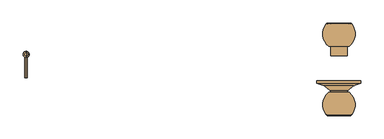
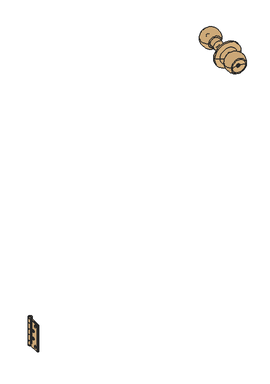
"""IFC4 building model written with IfcOpenShell, lengths in millimetres: door geometry, Puerta contraplacada Vaiven : Puerta contraplacada 0.85x2.10 m."""

from ifc_helpers import new_model, si_unit, point, frame, frame_2d, origin, place, context, project, spatial, polyline, circle_curve, ellipse_curve, trimmed, segment, composite_curve, outline, extrude, source, transform, mapped, element, save
from ifc_brep_helpers import plane_surface, cylinder_surface, revolved_surface, advanced_brep


def door_b74d320c(model_context):
    return source(origin(), model_context, "Body", "SolidModel", [
        advanced_brep(
        [(-389.0, 7.5, 200.0349265), (-389.0, 7.5, 100.0349265), (-389.0, 51.5, 100.0349265), (-389.0, 51.5, 115.5349265), (-389.0, 51.0, 115.5349265), (-389.0, 51.0, 141.0349265), (-389.0, 51.5, 141.0349265), (-389.0, 51.5, 159.0349265), (-389.0, 51.0, 159.0349265), (-389.0, 51.0, 184.5349265), (-389.0, 51.5, 184.5349265), (-389.0, 51.5, 200.0349265), (-389.0, 17.5, 111.0349265), (-389.0, 25.5, 111.0349265), (-389.0, 28.5, 136.0349265), (-389.0, 36.5, 136.0349265), (-389.0, 17.5, 189.0349265), (-389.0, 25.5, 189.0349265), (-389.0, 28.5, 164.0349265), (-389.0, 36.5, 164.0349265), (-391.0, 7.5, 100.0349265), (-391.0, 7.5, 200.0349265), (-391.0, 53.027864, 200.0349265), (-391.0, 53.027864, 184.5349265), (-391.0, 51.0, 184.5349265), (-391.0, 51.0, 159.0349265), (-391.0, 53.027864, 159.0349265), (-391.0, 53.027864, 141.0349265), (-391.0, 51.0, 141.0349265), (-391.0, 51.0, 115.5349265), (-391.0, 53.027864, 115.5349265), (-391.0, 53.027864, 100.0349265), (-391.0, 25.5, 111.0349265), (-391.0, 17.5, 111.0349265), (-391.0, 36.5, 136.0349265), (-391.0, 28.5, 136.0349265), (-391.0, 25.5, 189.0349265), (-391.0, 17.5, 189.0349265), (-391.0, 36.5, 164.0349265), (-391.0, 28.5, 164.0349265), (-392.0, 53.027864, 100.0349265), (-392.0, 51.0192593, 100.0349265), (-392.0, 51.0192593, 200.0349265), (-392.0, 53.027864, 200.0349265), (-392.0, 53.027864, 184.5349265), (-392.0, 51.0192593, 184.5349265), (-392.0, 51.0192593, 159.0349265), (-392.0, 53.027864, 159.0349265), (-392.0, 53.027864, 141.0349265), (-392.0, 51.0192593, 141.0349265), (-392.0, 51.0192593, 115.5349265), (-392.0, 53.027864, 115.5349265)],
        [
            (0, 1),
            (1, 2),
            (2, 3),
            (3, 4),
            (4, 5),
            (5, 6),
            (6, 7),
            (7, 8),
            (8, 9),
            (9, 10),
            (10, 11),
            (11, 0),
            (12, 13, circle_curve(frame((-389.0, 21.5, 111.0349265), z_axis=(-1.0, 0.0, 0.0), x_axis=(0.0, -1.0, 0.0)), 4.0)),
            (13, 12, circle_curve(frame((-389.0, 21.5, 111.0349265), z_axis=(-1.0, 0.0, 0.0), x_axis=(0.0, -1.0, 0.0)), 4.0)),
            (14, 15, circle_curve(frame((-389.0, 32.5, 136.0349265), z_axis=(-1.0, 0.0, 0.0), x_axis=(0.0, -1.0, 0.0)), 4.0)),
            (15, 14, circle_curve(frame((-389.0, 32.5, 136.0349265), z_axis=(-1.0, 0.0, 0.0), x_axis=(0.0, -1.0, 0.0)), 4.0)),
            (16, 17, circle_curve(frame((-389.0, 21.5, 189.0349265), z_axis=(-1.0, 0.0, 0.0), x_axis=(0.0, -1.0, 0.0)), 4.0)),
            (17, 16, circle_curve(frame((-389.0, 21.5, 189.0349265), z_axis=(-1.0, 0.0, 0.0), x_axis=(0.0, -1.0, 0.0)), 4.0)),
            (18, 19, circle_curve(frame((-389.0, 32.5, 164.0349265), z_axis=(-1.0, 0.0, 0.0), x_axis=(0.0, -1.0, 0.0)), 4.0)),
            (19, 18, circle_curve(frame((-389.0, 32.5, 164.0349265), z_axis=(-1.0, 0.0, 0.0), x_axis=(0.0, -1.0, 0.0)), 4.0)),
            (20, 21),
            (21, 22),
            (22, 23),
            (23, 24),
            (24, 25),
            (25, 26),
            (26, 27),
            (27, 28),
            (28, 29),
            (29, 30),
            (30, 31),
            (31, 20),
            (32, 33, circle_curve(frame((-391.0, 21.5, 111.0349265), z_axis=(1.0, 0.0, 0.0), x_axis=(0.0, -1.0, 0.0)), 4.0)),
            (33, 32, circle_curve(frame((-391.0, 21.5, 111.0349265), z_axis=(1.0, 0.0, 0.0), x_axis=(0.0, -1.0, 0.0)), 4.0)),
            (34, 35, circle_curve(frame((-391.0, 32.5, 136.0349265), z_axis=(1.0, 0.0, 0.0), x_axis=(0.0, -1.0, 0.0)), 4.0)),
            (35, 34, circle_curve(frame((-391.0, 32.5, 136.0349265), z_axis=(1.0, 0.0, 0.0), x_axis=(0.0, -1.0, 0.0)), 4.0)),
            (36, 37, circle_curve(frame((-391.0, 21.5, 189.0349265), z_axis=(1.0, 0.0, 0.0), x_axis=(0.0, -1.0, 0.0)), 4.0)),
            (37, 36, circle_curve(frame((-391.0, 21.5, 189.0349265), z_axis=(1.0, 0.0, 0.0), x_axis=(0.0, -1.0, 0.0)), 4.0)),
            (38, 39, circle_curve(frame((-391.0, 32.5, 164.0349265), z_axis=(1.0, 0.0, 0.0), x_axis=(0.0, -1.0, 0.0)), 4.0)),
            (39, 38, circle_curve(frame((-391.0, 32.5, 164.0349265), z_axis=(1.0, 0.0, 0.0), x_axis=(0.0, -1.0, 0.0)), 4.0)),
            (1, 20),
            (31, 40, circle_curve(frame((-391.5, 57.5, 100.0349265), z_axis=(0.0, 0.0, 1.0), x_axis=(0.0, 1.0, 0.0)), 4.5)),
            (40, 41),
            (41, 2, circle_curve(frame((-391.5, 57.5, 100.0349265), z_axis=(0.0, 0.0, -1.0), x_axis=(0.0, 1.0, 0.0)), 6.5)),
            (0, 21),
            (11, 42, circle_curve(frame((-391.5, 57.5, 200.0349265), z_axis=(0.0, 0.0, 1.0), x_axis=(0.0, 1.0, 0.0)), 6.5)),
            (42, 43),
            (43, 22, circle_curve(frame((-391.5, 57.5, 200.0349265), z_axis=(0.0, 0.0, -1.0), x_axis=(0.0, 1.0, 0.0)), 4.5)),
            (24, 9),
            (8, 25),
            (28, 5),
            (4, 29),
            (23, 44, circle_curve(frame((-391.5, 57.5, 184.5349265), z_axis=(0.0, 0.0, 1.0), x_axis=(0.0, 1.0, 0.0)), 4.5)),
            (44, 45),
            (45, 10, circle_curve(frame((-391.5, 57.5, 184.5349265), z_axis=(0.0, 0.0, -1.0), x_axis=(0.0, 1.0, 0.0)), 6.5)),
            (45, 42),
            (44, 43),
            (7, 46, circle_curve(frame((-391.5, 57.5, 159.0349265), z_axis=(0.0, 0.0, 1.0), x_axis=(0.0, 1.0, 0.0)), 6.5)),
            (46, 47),
            (47, 26, circle_curve(frame((-391.5, 57.5, 159.0349265), z_axis=(0.0, 0.0, -1.0), x_axis=(0.0, 1.0, 0.0)), 4.5)),
            (27, 48, circle_curve(frame((-391.5, 57.5, 141.0349265), z_axis=(0.0, 0.0, 1.0), x_axis=(0.0, 1.0, 0.0)), 4.5)),
            (48, 49),
            (49, 6, circle_curve(frame((-391.5, 57.5, 141.0349265), z_axis=(0.0, 0.0, -1.0), x_axis=(0.0, 1.0, 0.0)), 6.5)),
            (49, 46),
            (48, 47),
            (3, 50, circle_curve(frame((-391.5, 57.5, 115.5349265), z_axis=(0.0, 0.0, 1.0), x_axis=(0.0, 1.0, 0.0)), 6.5)),
            (50, 51),
            (51, 30, circle_curve(frame((-391.5, 57.5, 115.5349265), z_axis=(0.0, 0.0, -1.0), x_axis=(0.0, 1.0, 0.0)), 4.5)),
            (41, 50),
            (40, 51),
            (32, 13),
            (12, 33),
            (34, 15),
            (14, 35),
            (36, 17),
            (16, 37),
            (38, 19),
            (18, 39),
        ],
        [
            plane_surface(frame((-389.0, 51.0, 100.0349265), z_axis=(1.0, 0.0, 0.0), x_axis=(0.0, 0.0, 1.0))),
            plane_surface(frame((-391.0, 51.0, 100.0349265), z_axis=(-1.0, 0.0, 0.0), x_axis=(0.0, 0.0, -1.0))),
            plane_surface(frame((-389.0, 7.5, 100.0349265), z_axis=(0.0, 0.0, -1.0), x_axis=(-1.0, 0.0, 0.0))),
            plane_surface(frame((-389.0, 7.5, 200.0349265), z_axis=(0.0, -1.0, 0.0), x_axis=(-1.0, 0.0, 0.0))),
            plane_surface(frame((-389.0, 51.0, 200.0349265), z_axis=(0.0, 0.0, 1.0), x_axis=(-1.0, 0.0, 0.0))),
            plane_surface(frame((-389.0, 51.0, 100.0349265), z_axis=(0.0, 1.0, 0.0), x_axis=(-1.0, 0.0, 0.0))),
            plane_surface(frame((-391.0, 51.0, 184.5349265), z_axis=(0.0, 0.0, -1.0), x_axis=(0.0, 1.0, 0.0))),
            cylinder_surface(frame((-391.5, 57.5, 184.5349265), z_axis=(0.0, 0.0, 1.0), x_axis=(0.0, 1.0, 0.0)), 6.5),
            plane_surface(frame((-392.0, 51.0192593, 200.0349265), z_axis=(1.0, 0.0, 0.0), x_axis=(0.0, 0.0, -1.0))),
            revolved_surface(polyline([(-391.5, 62.0, 184.5349265), (-391.5, 62.0, 200.0349265)]), (-391.5, 57.5, 184.5349265), (0.0, 0.0, -1.0)),
            plane_surface(frame((-391.0, 51.0, 159.0349265), z_axis=(0.0, 0.0, 1.0), x_axis=(0.0, -1.0, 0.0))),
            plane_surface(frame((-391.0, 51.0, 141.0349265), z_axis=(0.0, 0.0, -1.0), x_axis=(0.0, 1.0, 0.0))),
            cylinder_surface(frame((-391.5, 57.5, 141.0349265), z_axis=(0.0, 0.0, 1.0), x_axis=(0.0, 1.0, 0.0)), 6.5),
            plane_surface(frame((-392.0, 51.0192593, 159.0349265), z_axis=(1.0, 0.0, 0.0), x_axis=(0.0, 0.0, -1.0))),
            revolved_surface(polyline([(-391.5, 62.0, 141.0349265), (-391.5, 62.0, 159.0349265)]), (-391.5, 57.5, 141.0349265), (0.0, 0.0, -1.0)),
            plane_surface(frame((-391.0, 51.0, 115.5349265), z_axis=(0.0, 0.0, 1.0), x_axis=(0.0, -1.0, 0.0))),
            cylinder_surface(frame((-391.5, 57.5, 100.0349265), z_axis=(0.0, 0.0, 1.0), x_axis=(0.0, 1.0, 0.0)), 6.5),
            plane_surface(frame((-392.0, 51.0192593, 115.5349265), z_axis=(1.0, 0.0, 0.0), x_axis=(0.0, 0.0, -1.0))),
            revolved_surface(polyline([(-391.5, 62.0, 100.0349265), (-391.5, 62.0, 115.5349265)]), (-391.5, 57.5, 100.0349265), (0.0, 0.0, -1.0)),
            revolved_surface(polyline([(-389.0, 17.5, 111.0349265), (-391.0, 17.5, 111.0349265)]), (-394.0, 21.5, 111.0349265), (1.0, 0.0, 0.0)),
            revolved_surface(polyline([(-389.0, 28.5, 136.0349265), (-391.0, 28.5, 136.0349265)]), (-392.0, 32.5, 136.0349265), (1.0, 0.0, 0.0)),
            revolved_surface(polyline([(-389.0, 17.5, 189.0349265), (-391.0, 17.5, 189.0349265)]), (-392.0, 21.5, 189.0349265), (1.0, 0.0, 0.0)),
            revolved_surface(polyline([(-389.0, 28.5, 164.0349265), (-391.0, 28.5, 164.0349265)]), (-392.0, 32.5, 164.0349265), (1.0, 0.0, 0.0)),
        ],
        [
            (0, [[1, 2, 3, 4, 5, 6, 7, 8, 9, 10, 11, 12], [13, 14], [15, 16], [17, 18], [19, 20]]),
            (1, [[21, 22, 23, 24, 25, 26, 27, 28, 29, 30, 31, 32], [33, 34], [35, 36], [37, 38], [39, 40]]),
            (2, [[41, -32, 42, 43, 44, -2]]),
            (3, [[-1, 45, -21, -41]]),
            (4, [[-45, -12, 46, 47, 48, -22]]),
            (5, [[49, -9, 50, -25]]),
            (5, [[51, -5, 52, -29]]),
            (6, [[53, 54, 55, -10, -49, -24]]),
            (7, [[-46, -11, -55, 56]]),
            (8, [[-47, -56, -54, 57]]),
            (9, [[-48, -57, -53, -23]]),
            (10, [[58, 59, 60, -26, -50, -8]]),
            (11, [[61, 62, 63, -6, -51, -28]]),
            (12, [[-58, -7, -63, 64]]),
            (13, [[-59, -64, -62, 65]]),
            (14, [[-60, -65, -61, -27]]),
            (15, [[66, 67, 68, -30, -52, -4]]),
            (16, [[-66, -3, -44, 69]]),
            (17, [[-67, -69, -43, 70]]),
            (18, [[-68, -70, -42, -31]]),
            (19, [[71, -13, 72, -33]]),
            (19, [[-71, -34, -72, -14]]),
            (20, [[73, -15, 74, -35]]),
            (20, [[-73, -36, -74, -16]]),
            (21, [[75, -17, 76, -37]]),
            (21, [[-75, -38, -76, -18]]),
            (22, [[77, -19, 78, -39]]),
            (22, [[-77, -40, -78, -20]]),
        ],
    ),
        advanced_brep(
        [(-391.5, 53.0, 204.0349265), (-391.5, 61.9442719, 204.0349265), (-391.5, 61.9442719, 200.5349265), (-391.5, 53.0, 200.5349265), (-391.5, 57.472136, 204.0349265), (-391.5, 53.0, 96.0349265), (-391.5, 61.9442719, 96.0349265), (-391.5, 57.472136, 96.0349265), (-391.5, 53.0, 99.5349265), (-391.5, 61.9442719, 99.5349265)],
        [
            (0, 1, circle_curve(frame((-391.5, 57.472136, 204.0349265), z_axis=(0.0, 0.0, -1.0), x_axis=(0.0, 1.0, 0.0)), 4.472136)),
            (1, 2, circle_curve(frame((-391.5, 61.9442719, 202.2849265), z_axis=(-1.0, 0.0, 0.0), x_axis=(0.0, -1.0, 0.0)), 1.75)),
            (2, 3, circle_curve(frame((-391.5, 57.472136, 200.5349265), z_axis=(0.0, 0.0, 1.0), x_axis=(0.0, 1.0, 0.0)), 4.472136)),
            (3, 0, circle_curve(frame((-391.5, 53.0, 202.2849265), z_axis=(-1.0, 0.0, 0.0), x_axis=(0.0, 1.0, 0.0)), 1.75)),
            (1, 0, circle_curve(frame((-391.5, 57.472136, 204.0349265), z_axis=(0.0, 0.0, -1.0), x_axis=(0.0, 1.0, 0.0)), 4.472136)),
            (3, 2, circle_curve(frame((-391.5, 57.472136, 200.5349265), z_axis=(0.0, 0.0, 1.0), x_axis=(0.0, 1.0, 0.0)), 4.472136)),
            (4, 1),
            (0, 4),
            (5, 6, circle_curve(frame((-391.5, 57.472136, 96.0349265), z_axis=(0.0, 0.0, -1.0), x_axis=(0.0, 1.0, 0.0)), 4.472136)),
            (6, 7),
            (7, 5),
            (6, 5, circle_curve(frame((-391.5, 57.472136, 96.0349265), z_axis=(0.0, 0.0, -1.0), x_axis=(0.0, 1.0, 0.0)), 4.472136)),
            (8, 9, circle_curve(frame((-391.5, 57.472136, 99.5349265), z_axis=(0.0, 0.0, -1.0), x_axis=(0.0, 1.0, 0.0)), 4.472136)),
            (9, 6, circle_curve(frame((-391.5, 61.9442719, 97.7849265), z_axis=(-1.0, 0.0, 0.0), x_axis=(0.0, -1.0, 0.0)), 1.75)),
            (5, 8, circle_curve(frame((-391.5, 53.0, 97.7849265), z_axis=(-1.0, 0.0, 0.0), x_axis=(0.0, 1.0, 0.0)), 1.75)),
            (9, 8, circle_curve(frame((-391.5, 57.472136, 99.5349265), z_axis=(0.0, 0.0, -1.0), x_axis=(0.0, 1.0, 0.0)), 4.472136)),
            (2, 9),
            (8, 3),
        ],
        [
            revolved_surface(trimmed(ellipse_curve(frame((-391.5, 61.9442719, 202.2849265), z_axis=(1.0, 0.0, 0.0), x_axis=(0.0, -1.0, 0.0)), 1.75, 1.75), [point((-391.5, 61.9442719, 200.5349265))], [point((-391.5, 61.9442719, 204.0349265))], True, "CARTESIAN"), (-391.5, 57.472136, 204.0349265), (0.0, 0.0, 1.0)),
            plane_surface(frame((-391.5, 57.472136, 204.0349265), z_axis=(0.0, 0.0, 1.0), x_axis=(0.0, 1.0, 0.0))),
            plane_surface(frame((-391.5, 57.472136, 96.0349265), z_axis=(0.0, 0.0, -1.0), x_axis=(0.0, 1.0, 0.0))),
            revolved_surface(trimmed(ellipse_curve(frame((-391.5, 61.9442719, 97.7849265), z_axis=(1.0, 0.0, 0.0), x_axis=(0.0, -1.0, 0.0)), 1.75, 1.75), [point((-391.5, 61.9442719, 96.0349265))], [point((-391.5, 61.9442719, 99.5349265))], True, "CARTESIAN"), (-391.5, 57.472136, 204.0349265), (0.0, 0.0, 1.0)),
            cylinder_surface(frame((-391.5, 57.472136, 204.0349265), z_axis=(0.0, 0.0, 1.0), x_axis=(0.0, 1.0, 0.0)), 4.472136),
        ],
        [
            (0, [[1, 2, 3, 4]]),
            (0, [[5, -4, 6, -2]]),
            (1, [[7, -1, 8]]),
            (1, [[-8, -5, -7]]),
            (2, [[9, 10, 11]]),
            (2, [[12, -11, -10]]),
            (3, [[13, 14, -9, 15]]),
            (3, [[16, -15, -12, -14]]),
            (4, [[-3, 17, -13, 18]]),
            (4, [[-6, -18, -16, -17]]),
        ],
    ),
        advanced_brep(
        [(-392.0, 51.0, 200.0349265), (-392.0, 7.5, 200.0349265), (-392.0, 7.5, 100.0349265), (-392.0, 51.0, 100.0349265), (-392.0, 51.0, 116.5349265), (-392.0, 53.027864, 116.5349265), (-392.0, 53.027864, 140.0349265), (-392.0, 51.0, 140.0349265), (-392.0, 51.0, 160.0349265), (-392.0, 53.027864, 160.0349265), (-392.0, 53.027864, 183.5349265), (-392.0, 51.0, 183.5349265), (-392.0, 17.5, 111.0349265), (-392.0, 25.5, 111.0349265), (-392.0, 28.5, 136.0349265), (-392.0, 36.5, 136.0349265), (-392.0, 17.5, 189.0349265), (-392.0, 25.5, 189.0349265), (-392.0, 28.5, 164.0349265), (-392.0, 36.5, 164.0349265), (-394.0, 51.0, 100.0349265), (-394.0, 7.5, 100.0349265), (-394.0, 7.5, 200.0349265), (-394.0, 51.0, 200.0349265), (-394.0, 51.0, 183.5349265), (-394.0, 51.5, 183.5349265), (-394.0, 51.5, 160.0349265), (-394.0, 51.0, 160.0349265), (-394.0, 51.0, 140.0349265), (-394.0, 51.5, 140.0349265), (-394.0, 51.5, 116.5349265), (-394.0, 51.0, 116.5349265), (-394.0, 25.5, 111.0349265), (-394.0, 17.5, 111.0349265), (-394.0, 36.5, 136.0349265), (-394.0, 28.5, 136.0349265), (-394.0, 25.5, 189.0349265), (-394.0, 17.5, 189.0349265), (-394.0, 36.5, 164.0349265), (-394.0, 28.5, 164.0349265), (-391.0, 53.027864, 183.5349265), (-391.0, 51.0192593, 183.5349265), (-391.0, 51.0192593, 160.0349265), (-391.0, 53.027864, 160.0349265), (-391.0, 53.027864, 140.0349265), (-391.0, 51.0192593, 140.0349265), (-391.0, 51.0192593, 116.5349265), (-391.0, 53.027864, 116.5349265)],
        [
            (0, 1),
            (1, 2),
            (2, 3),
            (3, 4),
            (4, 5),
            (5, 6),
            (6, 7),
            (7, 8),
            (8, 9),
            (9, 10),
            (10, 11),
            (11, 0),
            (12, 13, circle_curve(frame((-392.0, 21.5, 111.0349265), z_axis=(-1.0, 0.0, 0.0), x_axis=(0.0, -1.0, 0.0)), 4.0)),
            (13, 12, circle_curve(frame((-392.0, 21.5, 111.0349265), z_axis=(-1.0, 0.0, 0.0), x_axis=(0.0, -1.0, 0.0)), 4.0)),
            (14, 15, circle_curve(frame((-392.0, 32.5, 136.0349265), z_axis=(-1.0, 0.0, 0.0), x_axis=(0.0, -1.0, 0.0)), 4.0)),
            (15, 14, circle_curve(frame((-392.0, 32.5, 136.0349265), z_axis=(-1.0, 0.0, 0.0), x_axis=(0.0, -1.0, 0.0)), 4.0)),
            (16, 17, circle_curve(frame((-392.0, 21.5, 189.0349265), z_axis=(-1.0, 0.0, 0.0), x_axis=(0.0, -1.0, 0.0)), 4.0)),
            (17, 16, circle_curve(frame((-392.0, 21.5, 189.0349265), z_axis=(-1.0, 0.0, 0.0), x_axis=(0.0, -1.0, 0.0)), 4.0)),
            (18, 19, circle_curve(frame((-392.0, 32.5, 164.0349265), z_axis=(-1.0, 0.0, 0.0), x_axis=(0.0, -1.0, 0.0)), 4.0)),
            (19, 18, circle_curve(frame((-392.0, 32.5, 164.0349265), z_axis=(-1.0, 0.0, 0.0), x_axis=(0.0, -1.0, 0.0)), 4.0)),
            (20, 21),
            (21, 22),
            (22, 23),
            (23, 24),
            (24, 25),
            (25, 26),
            (26, 27),
            (27, 28),
            (28, 29),
            (29, 30),
            (30, 31),
            (31, 20),
            (32, 33, circle_curve(frame((-394.0, 21.5, 111.0349265), z_axis=(1.0, 0.0, 0.0), x_axis=(0.0, -1.0, 0.0)), 4.0)),
            (33, 32, circle_curve(frame((-394.0, 21.5, 111.0349265), z_axis=(1.0, 0.0, 0.0), x_axis=(0.0, -1.0, 0.0)), 4.0)),
            (34, 35, circle_curve(frame((-394.0, 32.5, 136.0349265), z_axis=(1.0, 0.0, 0.0), x_axis=(0.0, -1.0, 0.0)), 4.0)),
            (35, 34, circle_curve(frame((-394.0, 32.5, 136.0349265), z_axis=(1.0, 0.0, 0.0), x_axis=(0.0, -1.0, 0.0)), 4.0)),
            (36, 37, circle_curve(frame((-394.0, 21.5, 189.0349265), z_axis=(1.0, 0.0, 0.0), x_axis=(0.0, -1.0, 0.0)), 4.0)),
            (37, 36, circle_curve(frame((-394.0, 21.5, 189.0349265), z_axis=(1.0, 0.0, 0.0), x_axis=(0.0, -1.0, 0.0)), 4.0)),
            (38, 39, circle_curve(frame((-394.0, 32.5, 164.0349265), z_axis=(1.0, 0.0, 0.0), x_axis=(0.0, -1.0, 0.0)), 4.0)),
            (39, 38, circle_curve(frame((-394.0, 32.5, 164.0349265), z_axis=(1.0, 0.0, 0.0), x_axis=(0.0, -1.0, 0.0)), 4.0)),
            (2, 21),
            (20, 3),
            (1, 22),
            (0, 23),
            (11, 24),
            (31, 4),
            (27, 8),
            (7, 28),
            (10, 40, circle_curve(frame((-391.5, 57.5, 183.5349265), z_axis=(0.0, 0.0, -1.0), x_axis=(0.0, 1.0, 0.0)), 4.5)),
            (40, 41),
            (41, 25, circle_curve(frame((-391.5, 57.5, 183.5349265), z_axis=(0.0, 0.0, 1.0), x_axis=(0.0, 1.0, 0.0)), 6.5)),
            (26, 42, circle_curve(frame((-391.5, 57.5, 160.0349265), z_axis=(0.0, 0.0, -1.0), x_axis=(0.0, 1.0, 0.0)), 6.5)),
            (42, 43),
            (43, 9, circle_curve(frame((-391.5, 57.5, 160.0349265), z_axis=(0.0, 0.0, 1.0), x_axis=(0.0, 1.0, 0.0)), 4.5)),
            (41, 42),
            (40, 43),
            (6, 44, circle_curve(frame((-391.5, 57.5, 140.0349265), z_axis=(0.0, 0.0, -1.0), x_axis=(0.0, 1.0, 0.0)), 4.5)),
            (44, 45),
            (45, 29, circle_curve(frame((-391.5, 57.5, 140.0349265), z_axis=(0.0, 0.0, 1.0), x_axis=(0.0, 1.0, 0.0)), 6.5)),
            (30, 46, circle_curve(frame((-391.5, 57.5, 116.5349265), z_axis=(0.0, 0.0, -1.0), x_axis=(0.0, 1.0, 0.0)), 6.5)),
            (46, 47),
            (47, 5, circle_curve(frame((-391.5, 57.5, 116.5349265), z_axis=(0.0, 0.0, 1.0), x_axis=(0.0, 1.0, 0.0)), 4.5)),
            (45, 46),
            (44, 47),
            (32, 13),
            (12, 33),
            (34, 15),
            (14, 35),
            (36, 17),
            (16, 37),
            (38, 19),
            (18, 39),
        ],
        [
            plane_surface(frame((-392.0, 51.0, 100.0349265), z_axis=(1.0, 0.0, 0.0), x_axis=(0.0, 0.0, 1.0))),
            plane_surface(frame((-394.0, 51.0, 100.0349265), z_axis=(-1.0, 0.0, 0.0), x_axis=(0.0, 0.0, -1.0))),
            plane_surface(frame((-392.0, 7.5, 100.0349265), z_axis=(0.0, 0.0, -1.0), x_axis=(-1.0, 0.0, 0.0))),
            plane_surface(frame((-392.0, 7.5, 200.0349265), z_axis=(0.0, -1.0, 0.0), x_axis=(-1.0, 0.0, 0.0))),
            plane_surface(frame((-392.0, 51.0, 200.0349265), z_axis=(0.0, 0.0, 1.0), x_axis=(-1.0, 0.0, 0.0))),
            plane_surface(frame((-392.0, 51.0, 100.0349265), z_axis=(0.0, 1.0, 0.0), x_axis=(-1.0, 0.0, 0.0))),
            plane_surface(frame((-391.5, 62.0, 183.5349265), z_axis=(0.0, 0.0, 1.0), x_axis=(1.0, 0.0, 0.0))),
            plane_surface(frame((-391.5, 62.0, 160.0349265), z_axis=(0.0, 0.0, -1.0), x_axis=(-1.0, 0.0, 0.0))),
            cylinder_surface(frame((-391.5, 57.5, 160.0349265), z_axis=(0.0, 0.0, 1.0), x_axis=(0.0, 1.0, 0.0)), 6.5),
            plane_surface(frame((-391.0, 53.027864, 183.5349265), z_axis=(-1.0, 0.0, 0.0), x_axis=(0.0, 0.0, -1.0))),
            revolved_surface(polyline([(-391.5, 62.0, 160.0349265), (-391.5, 62.0, 183.5349265)]), (-391.5, 57.5, 160.0349265), (0.0, 0.0, -1.0)),
            plane_surface(frame((-391.5, 62.0, 140.0349265), z_axis=(0.0, 0.0, 1.0), x_axis=(1.0, 0.0, 0.0))),
            plane_surface(frame((-391.5, 62.0, 116.5349265), z_axis=(0.0, 0.0, -1.0), x_axis=(-1.0, 0.0, 0.0))),
            cylinder_surface(frame((-391.5, 57.5, 116.5349265), z_axis=(0.0, 0.0, 1.0), x_axis=(0.0, 1.0, 0.0)), 6.5),
            plane_surface(frame((-391.0, 53.027864, 140.0349265), z_axis=(-1.0, 0.0, 0.0), x_axis=(0.0, 0.0, -1.0))),
            revolved_surface(polyline([(-391.5, 62.0, 116.5349265), (-391.5, 62.0, 140.0349265)]), (-391.5, 57.5, 116.5349265), (0.0, 0.0, -1.0)),
            revolved_surface(polyline([(-392.0, 17.5, 111.0349265), (-394.0, 17.5, 111.0349265)]), (-394.0, 21.5, 111.0349265), (1.0, 0.0, 0.0)),
            revolved_surface(polyline([(-392.0, 28.5, 136.0349265), (-394.0, 28.5, 136.0349265)]), (-392.0, 32.5, 136.0349265), (1.0, 0.0, 0.0)),
            revolved_surface(polyline([(-392.0, 17.5, 189.0349265), (-394.0, 17.5, 189.0349265)]), (-392.0, 21.5, 189.0349265), (1.0, 0.0, 0.0)),
            revolved_surface(polyline([(-392.0, 28.5, 164.0349265), (-394.0, 28.5, 164.0349265)]), (-392.0, 32.5, 164.0349265), (1.0, 0.0, 0.0)),
        ],
        [
            (0, [[1, 2, 3, 4, 5, 6, 7, 8, 9, 10, 11, 12], [13, 14], [15, 16], [17, 18], [19, 20]]),
            (1, [[21, 22, 23, 24, 25, 26, 27, 28, 29, 30, 31, 32], [33, 34], [35, 36], [37, 38], [39, 40]]),
            (2, [[-3, 41, -21, 42]]),
            (3, [[-2, 43, -22, -41]]),
            (4, [[-1, 44, -23, -43]]),
            (5, [[-44, -12, 45, -24]]),
            (5, [[-42, -32, 46, -4]]),
            (5, [[47, -8, 48, -28]]),
            (6, [[49, 50, 51, -25, -45, -11]]),
            (7, [[52, 53, 54, -9, -47, -27]]),
            (8, [[-51, 55, -52, -26]]),
            (9, [[-50, 56, -53, -55]]),
            (10, [[-49, -10, -54, -56]]),
            (11, [[57, 58, 59, -29, -48, -7]]),
            (12, [[60, 61, 62, -5, -46, -31]]),
            (13, [[-59, 63, -60, -30]]),
            (14, [[-58, 64, -61, -63]]),
            (15, [[-57, -6, -62, -64]]),
            (16, [[65, -13, 66, -33]]),
            (16, [[-65, -34, -66, -14]]),
            (17, [[67, -15, 68, -35]]),
            (17, [[-67, -36, -68, -16]]),
            (18, [[69, -17, 70, -37]]),
            (18, [[-69, -38, -70, -18]]),
            (19, [[71, -19, 72, -39]]),
            (19, [[-71, -40, -72, -20]]),
        ],
    ),
        advanced_brep(
        [(308.5312643, -74.946362, 1000.0), (262.0312357, -74.946362, 1000.0), (279.08125, -70.0573491, 1000.0), (291.48125, -70.0573491, 1000.0), (279.08125, -66.5726145, 1000.0), (291.48125, -66.5726145, 1000.0), (285.28125, -66.5726145, 1000.0), (262.840796, -25.0, 1000.0), (307.721704, -25.0, 1000.0), (286.28125, -25.0, 1000.0), (286.28125, -25.0, 1004.2233344), (285.28125, -25.0, 1004.2233344), (285.28125, -25.0, 1000.0), (284.28125, -25.0, 1000.0), (284.28125, -25.0, 998.7784645), (285.28125, -25.0, 998.7784645), (285.28125, -25.0, 997.5508857), (284.28125, -25.0, 997.5508857), (284.28125, -25.0, 995.9198337), (286.28125, -25.0, 995.9198337), (257.8579738, -73.6071088, 1000.0), (312.7045262, -73.6071088, 1000.0), (286.28125, -33.4273855, 995.9198337), (284.28125, -33.4273855, 995.9198337), (284.28125, -33.4273855, 997.5508857), (285.28125, -33.4273855, 997.5508857), (285.28125, -33.4273855, 998.7784645), (284.28125, -33.4273855, 998.7784645), (284.28125, -33.4273855, 1000.0), (285.28125, -33.4273855, 1000.0), (285.28125, -33.4273855, 1004.2233344), (286.28125, -33.4273855, 1004.2233344)],
        [
            (0, 1, circle_curve(frame((285.28125, -74.946362, 1000.0), z_axis=(0.0, -1.0, 0.0), x_axis=(-1.0, 0.0, 0.0)), 23.2500143)),
            (1, 2),
            (2, 3, circle_curve(frame((285.28125, -70.0573491, 1000.0), z_axis=(0.0, 1.0, 0.0), x_axis=(-1.0, 0.0, 0.0)), 6.2)),
            (3, 0),
            (1, 0, circle_curve(frame((285.28125, -74.946362, 1000.0), z_axis=(0.0, -1.0, 0.0), x_axis=(-1.0, 0.0, 0.0)), 23.2500143)),
            (3, 2, circle_curve(frame((285.28125, -70.0573491, 1000.0), z_axis=(0.0, 1.0, 0.0), x_axis=(-1.0, 0.0, 0.0)), 6.2)),
            (2, 4),
            (4, 5, circle_curve(frame((285.28125, -66.5726145, 1000.0), z_axis=(0.0, 1.0, 0.0), x_axis=(-1.0, 0.0, 0.0)), 6.2)),
            (5, 3),
            (5, 4, circle_curve(frame((285.28125, -66.5726145, 1000.0), z_axis=(0.0, 1.0, 0.0), x_axis=(-1.0, 0.0, 0.0)), 6.2)),
            (4, 6),
            (6, 5),
            (7, 8, circle_curve(frame((285.28125, -25.0, 1000.0), z_axis=(0.0, 1.0, 0.0), x_axis=(-1.0, 0.0, 0.0)), 22.440454)),
            (8, 9),
            (9, 10),
            (10, 11),
            (11, 12),
            (12, 13),
            (13, 7),
            (8, 7, circle_curve(frame((285.28125, -25.0, 1000.0), z_axis=(0.0, 1.0, 0.0), x_axis=(-1.0, 0.0, 0.0)), 22.440454)),
            (13, 14),
            (14, 15),
            (15, 16),
            (16, 17),
            (17, 18),
            (18, 19),
            (19, 9),
            (7, 20, circle_curve(frame((285.28125, -51.859375, 1000.0), z_axis=(0.0, 0.0, 1.0), x_axis=(1.0, 0.0, 0.0)), 35.0)),
            (20, 21, circle_curve(frame((285.28125, -73.6071088, 1000.0), z_axis=(0.0, 1.0, 0.0), x_axis=(-1.0, 0.0, 0.0)), 27.4232762)),
            (21, 8, circle_curve(frame((285.28125, -51.859375, 1000.0), z_axis=(0.0, 0.0, 1.0), x_axis=(-1.0, 0.0, 0.0)), 35.0)),
            (21, 20, circle_curve(frame((285.28125, -73.6071088, 1000.0), z_axis=(0.0, 1.0, 0.0), x_axis=(-1.0, 0.0, 0.0)), 27.4232762)),
            (0, 21, circle_curve(frame((309.6173206, -71.1588336, 1000.0), z_axis=(0.0, 0.0, 1.0), x_axis=(-1.0, 0.0, 0.0)), 3.9401636)),
            (20, 1, circle_curve(frame((260.9451794, -71.1588336, 1000.0), z_axis=(0.0, 0.0, 1.0), x_axis=(1.0, 0.0, 0.0)), 3.9401636)),
            (22, 23),
            (23, 24),
            (24, 25),
            (25, 26),
            (26, 27),
            (27, 28),
            (28, 29),
            (29, 30),
            (30, 31),
            (31, 22),
            (22, 19),
            (18, 23),
            (17, 24),
            (16, 25),
            (15, 26),
            (14, 27),
            (13, 28),
            (12, 29),
            (11, 30),
            (10, 31),
        ],
        [
            revolved_surface(polyline([(279.08125, -70.0573491, 1000.0), (262.0312357, -74.946362, 1000.0)]), (285.28125, -27.0, 1000.0), (0.0, 1.0, 0.0)),
            revolved_surface(polyline([(279.08125, -66.5726145, 1000.0), (279.08125, -70.0573491, 1000.0)]), (285.28125, -27.0, 1000.0), (0.0, 1.0, 0.0)),
            plane_surface(frame((285.28125, -66.5726145, 1000.0), z_axis=(0.0, -1.0, 0.0), x_axis=(-1.0, 0.0, 0.0))),
            plane_surface(frame((285.28125, -25.0, 1000.0), z_axis=(0.0, 1.0, 0.0), x_axis=(-1.0, 0.0, 0.0))),
            revolved_surface(trimmed(ellipse_curve(frame((285.28125, -51.859375, 1000.0), z_axis=(0.0, 0.0, -1.0), x_axis=(1.0, 0.0, 0.0)), 35.0, 35.0), [point((257.8579738, -73.6071088, 1000.0))], [point((262.840796, -25.0, 1000.0))], True, "CARTESIAN"), (285.28125, -27.0, 1000.0), (0.0, 1.0, 0.0)),
            revolved_surface(trimmed(ellipse_curve(frame((260.9451794, -71.1588336, 1000.0), z_axis=(0.0, 0.0, -1.0), x_axis=(1.0, 0.0, 0.0)), 3.9401636, 3.9401636), [point((262.0312357, -74.946362, 1000.0))], [point((257.8579738, -73.6071088, 1000.0))], True, "CARTESIAN"), (285.28125, -27.0, 1000.0), (0.0, 1.0, 0.0)),
            plane_surface(frame((284.28125, -33.4273855, 995.9198337), z_axis=(0.0, 1.0, 0.0), x_axis=(1.0, 0.0, 0.0))),
            plane_surface(frame((286.28125, -18.8970167, 995.9198337), z_axis=(0.0, 0.0, 1.0), x_axis=(0.0, -1.0, 0.0))),
            plane_surface(frame((284.28125, -18.8970167, 995.9198337), z_axis=(1.0, 0.0, 0.0), x_axis=(0.0, -1.0, 0.0))),
            plane_surface(frame((284.28125, -18.8970167, 997.5508857), z_axis=(0.0, 0.0, -1.0), x_axis=(0.0, -1.0, 0.0))),
            plane_surface(frame((285.28125, -18.8970167, 997.5508857), z_axis=(1.0, 0.0, 0.0), x_axis=(0.0, -1.0, 0.0))),
            plane_surface(frame((285.28125, -18.8970167, 998.7784645), z_axis=(0.0, 0.0, 1.0), x_axis=(0.0, -1.0, 0.0))),
            plane_surface(frame((284.28125, -18.8970167, 998.7784645), z_axis=(1.0, 0.0, 0.0), x_axis=(0.0, -1.0, 0.0))),
            plane_surface(frame((284.28125, -18.8970167, 1000.0), z_axis=(0.0, 0.0, -1.0), x_axis=(0.0, -1.0, 0.0))),
            plane_surface(frame((285.28125, -18.8970167, 1000.0), z_axis=(1.0, 0.0, 0.0), x_axis=(0.0, -1.0, 0.0))),
            plane_surface(frame((285.28125, -18.8970167, 1004.2233344), z_axis=(0.0, 0.0, -1.0), x_axis=(0.0, -1.0, 0.0))),
            plane_surface(frame((286.28125, -18.8970167, 1004.2233344), z_axis=(-1.0, 0.0, 0.0), x_axis=(0.0, -1.0, 0.0))),
        ],
        [
            (0, [[1, 2, 3, 4]]),
            (0, [[-2, 5, -4, 6]]),
            (1, [[-3, 7, 8, 9]]),
            (1, [[-6, -9, 10, -7]]),
            (2, [[-8, 11, 12]]),
            (2, [[-10, -12, -11]]),
            (3, [[13, 14, 15, 16, 17, 18, 19]]),
            (3, [[20, -19, 21, 22, 23, 24, 25, 26, 27, -14]]),
            (4, [[-13, 28, 29, 30]]),
            (4, [[-20, -30, 31, -28]]),
            (5, [[-1, 32, -29, 33]]),
            (5, [[-5, -33, -31, -32]]),
            (6, [[34, 35, 36, 37, 38, 39, 40, 41, 42, 43]]),
            (7, [[-34, 44, -26, 45]]),
            (8, [[-35, -45, -25, 46]]),
            (9, [[-36, -46, -24, 47]]),
            (10, [[-37, -47, -23, 48]]),
            (11, [[-38, -48, -22, 49]]),
            (12, [[-39, -49, -21, 50]]),
            (13, [[-40, -50, -18, 51]]),
            (14, [[-41, -51, -17, 52]]),
            (15, [[-42, -52, -16, 53]]),
            (16, [[-43, -53, -15, -27, -44]]),
        ],
    ),
        advanced_brep(
        [(267.78125, -5.0, 1000.0), (302.78125, -5.0, 1000.0), (267.78125, -25.0, 1000.0), (302.78125, -25.0, 1000.0), (286.28125, -25.0, 995.9198337), (284.28125, -25.0, 995.9198337), (284.28125, -25.0, 997.5508857), (285.28125, -25.0, 997.5508857), (285.28125, -25.0, 998.7784645), (284.28125, -25.0, 998.7784645), (284.28125, -25.0, 1000.0), (285.28125, -25.0, 1000.0), (285.28125, -25.0, 1004.2233344), (286.28125, -25.0, 1004.2233344), (286.28125, -18.8970167, 995.9198337), (286.28125, -18.8970167, 1004.2233344), (285.28125, -18.8970167, 1004.2233344), (285.28125, -18.8970167, 1000.0), (284.28125, -18.8970167, 1000.0), (284.28125, -18.8970167, 998.7784645), (285.28125, -18.8970167, 998.7784645), (285.28125, -18.8970167, 997.5508857), (284.28125, -18.8970167, 997.5508857), (284.28125, -18.8970167, 995.9198337)],
        [
            (0, 1, circle_curve(frame((285.28125, -5.0, 1000.0), z_axis=(0.0, 1.0, 0.0), x_axis=(1.0, 0.0, 0.0)), 17.5)),
            (1, 0, circle_curve(frame((285.28125, -5.0, 1000.0), z_axis=(0.0, 1.0, 0.0), x_axis=(1.0, 0.0, 0.0)), 17.5)),
            (2, 3, circle_curve(frame((285.28125, -25.0, 1000.0), z_axis=(0.0, -1.0, 0.0), x_axis=(1.0, 0.0, 0.0)), 17.5)),
            (3, 2, circle_curve(frame((285.28125, -25.0, 1000.0), z_axis=(0.0, -1.0, 0.0), x_axis=(1.0, 0.0, 0.0)), 17.5)),
            (4, 5),
            (5, 6),
            (6, 7),
            (7, 8),
            (8, 9),
            (9, 10),
            (10, 11),
            (11, 12),
            (12, 13),
            (13, 4),
            (0, 2),
            (3, 1),
            (14, 15),
            (15, 16),
            (16, 17),
            (17, 18),
            (18, 19),
            (19, 20),
            (20, 21),
            (21, 22),
            (22, 23),
            (23, 14),
            (23, 5),
            (4, 14),
            (22, 6),
            (21, 7),
            (20, 8),
            (19, 9),
            (18, 10),
            (17, 11),
            (16, 12),
            (15, 13),
        ],
        [
            plane_surface(frame((302.78125, -5.0, 1000.0), z_axis=(0.0, 1.0, 0.0), x_axis=(0.0, 0.0, -1.0))),
            plane_surface(frame((302.78125, -25.0, 1000.0), z_axis=(0.0, -1.0, 0.0), x_axis=(0.0, 0.0, 1.0))),
            cylinder_surface(frame((285.28125, -25.0, 1000.0), z_axis=(0.0, 1.0, 0.0), x_axis=(1.0, 0.0, 0.0)), 17.5),
            plane_surface(frame((284.28125, -18.8970167, 995.9198337), z_axis=(0.0, -1.0, 0.0), x_axis=(-1.0, 0.0, 0.0))),
            plane_surface(frame((286.28125, -18.8970167, 995.9198337), z_axis=(0.0, 0.0, 1.0), x_axis=(0.0, -1.0, 0.0))),
            plane_surface(frame((284.28125, -18.8970167, 995.9198337), z_axis=(1.0, 0.0, 0.0), x_axis=(0.0, -1.0, 0.0))),
            plane_surface(frame((284.28125, -18.8970167, 997.5508857), z_axis=(0.0, 0.0, -1.0), x_axis=(0.0, -1.0, 0.0))),
            plane_surface(frame((285.28125, -18.8970167, 997.5508857), z_axis=(1.0, 0.0, 0.0), x_axis=(0.0, -1.0, 0.0))),
            plane_surface(frame((285.28125, -18.8970167, 998.7784645), z_axis=(0.0, 0.0, 1.0), x_axis=(0.0, -1.0, 0.0))),
            plane_surface(frame((284.28125, -18.8970167, 998.7784645), z_axis=(1.0, 0.0, 0.0), x_axis=(0.0, -1.0, 0.0))),
            plane_surface(frame((284.28125, -18.8970167, 1000.0), z_axis=(0.0, 0.0, -1.0), x_axis=(0.0, -1.0, 0.0))),
            plane_surface(frame((285.28125, -18.8970167, 1000.0), z_axis=(1.0, 0.0, 0.0), x_axis=(0.0, -1.0, 0.0))),
            plane_surface(frame((285.28125, -18.8970167, 1004.2233344), z_axis=(0.0, 0.0, -1.0), x_axis=(0.0, -1.0, 0.0))),
            plane_surface(frame((286.28125, -18.8970167, 1004.2233344), z_axis=(-1.0, 0.0, 0.0), x_axis=(0.0, -1.0, 0.0))),
        ],
        [
            (0, [[1, 2]]),
            (1, [[3, 4], [5, 6, 7, 8, 9, 10, 11, 12, 13, 14]]),
            (2, [[-1, 15, -4, 16]]),
            (2, [[-2, -16, -3, -15]]),
            (3, [[17, 18, 19, 20, 21, 22, 23, 24, 25, 26]]),
            (4, [[-26, 27, -5, 28]]),
            (5, [[-25, 29, -6, -27]]),
            (6, [[-24, 30, -7, -29]]),
            (7, [[-23, 31, -8, -30]]),
            (8, [[-22, 32, -9, -31]]),
            (9, [[-21, 33, -10, -32]]),
            (10, [[-20, 34, -11, -33]]),
            (11, [[-19, 35, -12, -34]]),
            (12, [[-18, 36, -13, -35]]),
            (13, [[-17, -28, -14, -36]]),
        ],
    ),
        advanced_brep(
        [(291.203125, 120.0573491, 1000.0), (279.359375, 120.0573491, 1000.0), (279.359375, 116.5726145, 1000.0), (291.203125, 116.5726145, 1000.0), (290.203125, 120.0573491, 1000.0), (280.359375, 120.0573491, 1000.0), (286.28125, 120.0573491, 1000.0), (286.28125, 120.0573491, 1004.2233344), (285.28125, 120.0573491, 1004.2233344), (285.28125, 120.0573491, 1000.0), (284.28125, 120.0573491, 1000.0), (284.28125, 120.0573491, 998.7784645), (285.28125, 120.0573491, 998.7784645), (285.28125, 120.0573491, 997.5508857), (284.28125, 120.0573491, 997.5508857), (284.28125, 120.0573491, 995.9198337), (286.28125, 120.0573491, 995.9198337), (284.28125, 116.5726145, 1000.0), (285.28125, 116.5726145, 1000.0), (285.28125, 116.5726145, 1004.2233344), (286.28125, 116.5726145, 1004.2233344), (286.28125, 116.5726145, 1000.0), (286.28125, 116.5726145, 995.9198337), (284.28125, 116.5726145, 995.9198337), (284.28125, 116.5726145, 997.5508857), (285.28125, 116.5726145, 997.5508857), (285.28125, 116.5726145, 998.7784645), (284.28125, 116.5726145, 998.7784645)],
        [
            (0, 1, circle_curve(frame((285.28125, 120.0573491, 1000.0), z_axis=(0.0, -1.0, 0.0), x_axis=(-1.0, 0.0, 0.0)), 5.921875)),
            (1, 2),
            (2, 3, circle_curve(frame((285.28125, 116.5726145, 1000.0), z_axis=(0.0, 1.0, 0.0), x_axis=(-1.0, 0.0, 0.0)), 5.921875)),
            (3, 0),
            (1, 0, circle_curve(frame((285.28125, 120.0573491, 1000.0), z_axis=(0.0, -1.0, 0.0), x_axis=(-1.0, 0.0, 0.0)), 5.921875)),
            (3, 2, circle_curve(frame((285.28125, 116.5726145, 1000.0), z_axis=(0.0, 1.0, 0.0), x_axis=(-1.0, 0.0, 0.0)), 5.921875)),
            (0, 4, circle_curve(frame((290.703125, 120.0573491, 1000.0), z_axis=(0.0, 0.0, 1.0), x_axis=(-1.0, 0.0, 0.0)), 0.5)),
            (4, 5, circle_curve(frame((285.28125, 120.0573491, 1000.0), z_axis=(0.0, -1.0, 0.0), x_axis=(-1.0, 0.0, 0.0)), 4.921875)),
            (5, 1, circle_curve(frame((279.859375, 120.0573491, 1000.0), z_axis=(0.0, 0.0, 1.0), x_axis=(1.0, 0.0, 0.0)), 0.5)),
            (5, 4, circle_curve(frame((285.28125, 120.0573491, 1000.0), z_axis=(0.0, -1.0, 0.0), x_axis=(-1.0, 0.0, 0.0)), 4.921875)),
            (4, 6),
            (6, 7),
            (7, 8),
            (8, 9),
            (9, 10),
            (10, 5),
            (10, 11),
            (11, 12),
            (12, 13),
            (13, 14),
            (14, 15),
            (15, 16),
            (16, 6),
            (2, 17),
            (17, 18),
            (18, 19),
            (19, 20),
            (20, 21),
            (21, 3),
            (21, 22),
            (22, 23),
            (23, 24),
            (24, 25),
            (25, 26),
            (26, 27),
            (27, 17),
            (22, 16),
            (15, 23),
            (14, 24),
            (13, 25),
            (12, 26),
            (11, 27),
            (10, 17),
            (9, 18),
            (8, 19),
            (7, 20),
        ],
        [
            cylinder_surface(frame((285.28125, 116.5726145, 1000.0), z_axis=(0.0, 1.0, 0.0), x_axis=(-1.0, 0.0, 0.0)), 5.921875),
            revolved_surface(trimmed(ellipse_curve(frame((279.859375, 120.0573491, 1000.0), z_axis=(0.0, 0.0, -1.0), x_axis=(1.0, 0.0, 0.0)), 0.5, 0.5), [point((279.359375, 120.0573491, 1000.0))], [point((280.359375, 120.0573491, 1000.0))], True, "CARTESIAN"), (285.28125, 116.5726145, 1000.0), (0.0, 1.0, 0.0)),
            plane_surface(frame((285.28125, 120.0573491, 1000.0), z_axis=(0.0, 1.0, 0.0), x_axis=(-1.0, 0.0, 0.0))),
            plane_surface(frame((285.28125, 116.5726145, 1000.0), z_axis=(0.0, -1.0, 0.0), x_axis=(-1.0, 0.0, 0.0))),
            plane_surface(frame((286.28125, 131.1029833, 995.9198337), z_axis=(0.0, 0.0, 1.0), x_axis=(0.0, -1.0, 0.0))),
            plane_surface(frame((284.28125, 131.1029833, 995.9198337), z_axis=(1.0, 0.0, 0.0), x_axis=(0.0, -1.0, 0.0))),
            plane_surface(frame((284.28125, 131.1029833, 997.5508857), z_axis=(0.0, 0.0, -1.0), x_axis=(0.0, -1.0, 0.0))),
            plane_surface(frame((285.28125, 131.1029833, 997.5508857), z_axis=(1.0, 0.0, 0.0), x_axis=(0.0, -1.0, 0.0))),
            plane_surface(frame((285.28125, 131.1029833, 998.7784645), z_axis=(0.0, 0.0, 1.0), x_axis=(0.0, -1.0, 0.0))),
            plane_surface(frame((284.28125, 131.1029833, 998.7784645), z_axis=(1.0, 0.0, 0.0), x_axis=(0.0, -1.0, 0.0))),
            plane_surface(frame((284.28125, 131.1029833, 1000.0), z_axis=(0.0, 0.0, -1.0), x_axis=(0.0, -1.0, 0.0))),
            plane_surface(frame((285.28125, 131.1029833, 1000.0), z_axis=(1.0, 0.0, 0.0), x_axis=(0.0, -1.0, 0.0))),
            plane_surface(frame((285.28125, 131.1029833, 1004.2233344), z_axis=(0.0, 0.0, -1.0), x_axis=(0.0, -1.0, 0.0))),
            plane_surface(frame((286.28125, 131.1029833, 1004.2233344), z_axis=(-1.0, 0.0, 0.0), x_axis=(0.0, -1.0, 0.0))),
        ],
        [
            (0, [[1, 2, 3, 4]]),
            (0, [[-2, 5, -4, 6]]),
            (1, [[-1, 7, 8, 9]]),
            (1, [[-5, -9, 10, -7]]),
            (2, [[-8, 11, 12, 13, 14, 15, 16]]),
            (2, [[-10, -16, 17, 18, 19, 20, 21, 22, 23, -11]]),
            (3, [[-3, 24, 25, 26, 27, 28, 29]]),
            (3, [[-6, -29, 30, 31, 32, 33, 34, 35, 36, -24]]),
            (4, [[37, -22, 38, -31]]),
            (5, [[-38, -21, 39, -32]]),
            (6, [[-39, -20, 40, -33]]),
            (7, [[-40, -19, 41, -34]]),
            (8, [[-41, -18, 42, -35]]),
            (9, [[43, -36, -42, -17]]),
            (10, [[-43, -15, 44, -25]]),
            (11, [[-44, -14, 45, -26]]),
            (12, [[-45, -13, 46, -27]]),
            (13, [[-37, -30, -28, -46, -12, -23]]),
        ],
    ),
        advanced_brep(
        [(291.48125, 120.0573491, 1000.0), (279.08125, 120.0573491, 1000.0), (262.0312357, 124.946362, 1000.0), (308.5312643, 124.946362, 1000.0), (291.48125, 116.5726145, 1000.0), (279.08125, 116.5726145, 1000.0), (286.28125, 116.5726145, 1000.0), (285.28125, 116.5726145, 1000.0), (284.28125, 116.5726145, 1000.0), (307.721704, 75.0, 1000.0), (262.840796, 75.0, 1000.0), (285.28125, 75.0, 1000.0), (312.7045262, 123.6071088, 1000.0), (257.8579738, 123.6071088, 1000.0)],
        [
            (0, 1, circle_curve(frame((285.28125, 120.0573491, 1000.0), z_axis=(0.0, -1.0, 0.0), x_axis=(-1.0, 0.0, 0.0)), 6.2)),
            (1, 2),
            (2, 3, circle_curve(frame((285.28125, 124.946362, 1000.0), z_axis=(0.0, 1.0, 0.0), x_axis=(-1.0, 0.0, 0.0)), 23.2500143)),
            (3, 0),
            (1, 0, circle_curve(frame((285.28125, 120.0573491, 1000.0), z_axis=(0.0, -1.0, 0.0), x_axis=(-1.0, 0.0, 0.0)), 6.2)),
            (3, 2, circle_curve(frame((285.28125, 124.946362, 1000.0), z_axis=(0.0, 1.0, 0.0), x_axis=(-1.0, 0.0, 0.0)), 23.2500143)),
            (0, 4),
            (4, 5, circle_curve(frame((285.28125, 116.5726145, 1000.0), z_axis=(0.0, -1.0, 0.0), x_axis=(-1.0, 0.0, 0.0)), 6.2)),
            (5, 1),
            (5, 4, circle_curve(frame((285.28125, 116.5726145, 1000.0), z_axis=(0.0, -1.0, 0.0), x_axis=(-1.0, 0.0, 0.0)), 6.2)),
            (4, 6),
            (6, 7),
            (7, 8),
            (8, 5),
            (9, 10, circle_curve(frame((285.28125, 75.0, 1000.0), z_axis=(0.0, -1.0, 0.0), x_axis=(-1.0, 0.0, 0.0)), 22.440454)),
            (10, 11),
            (11, 9),
            (10, 9, circle_curve(frame((285.28125, 75.0, 1000.0), z_axis=(0.0, -1.0, 0.0), x_axis=(-1.0, 0.0, 0.0)), 22.440454)),
            (9, 12, circle_curve(frame((285.28125, 101.859375, 1000.0), z_axis=(0.0, 0.0, 1.0), x_axis=(-1.0, 0.0, 0.0)), 35.0)),
            (12, 13, circle_curve(frame((285.28125, 123.6071088, 1000.0), z_axis=(0.0, -1.0, 0.0), x_axis=(-1.0, 0.0, 0.0)), 27.4232762)),
            (13, 10, circle_curve(frame((285.28125, 101.859375, 1000.0), z_axis=(0.0, 0.0, 1.0), x_axis=(1.0, 0.0, 0.0)), 35.0)),
            (13, 12, circle_curve(frame((285.28125, 123.6071088, 1000.0), z_axis=(0.0, -1.0, 0.0), x_axis=(-1.0, 0.0, 0.0)), 27.4232762)),
            (2, 13, circle_curve(frame((260.9451794, 121.1588336, 1000.0), z_axis=(0.0, 0.0, 1.0), x_axis=(1.0, 0.0, 0.0)), 3.9401636)),
            (12, 3, circle_curve(frame((309.6173206, 121.1588336, 1000.0), z_axis=(0.0, 0.0, 1.0), x_axis=(-1.0, 0.0, 0.0)), 3.9401636)),
        ],
        [
            revolved_surface(polyline([(262.0312357, 124.946362, 1000.0), (279.08125, 120.0573491, 1000.0)]), (285.28125, 77.0, 1000.0), (0.0, 1.0, 0.0)),
            revolved_surface(polyline([(279.08125, 120.0573491, 1000.0), (279.08125, 116.5726145, 1000.0)]), (285.28125, 77.0, 1000.0), (0.0, 1.0, 0.0)),
            plane_surface(frame((285.28125, 116.5726145, 1000.0), z_axis=(0.0, 1.0, 0.0), x_axis=(-1.0, 0.0, 0.0))),
            plane_surface(frame((285.28125, 75.0, 1000.0), z_axis=(0.0, -1.0, 0.0), x_axis=(-1.0, 0.0, 0.0))),
            revolved_surface(trimmed(ellipse_curve(frame((285.28125, 101.859375, 1000.0), z_axis=(0.0, 0.0, -1.0), x_axis=(1.0, 0.0, 0.0)), 35.0, 35.0), [point((262.840796, 75.0, 1000.0))], [point((257.8579738, 123.6071088, 1000.0))], True, "CARTESIAN"), (285.28125, 77.0, 1000.0), (0.0, 1.0, 0.0)),
            revolved_surface(trimmed(ellipse_curve(frame((260.9451794, 121.1588336, 1000.0), z_axis=(0.0, 0.0, -1.0), x_axis=(1.0, 0.0, 0.0)), 3.9401636, 3.9401636), [point((257.8579738, 123.6071088, 1000.0))], [point((262.0312357, 124.946362, 1000.0))], True, "CARTESIAN"), (285.28125, 77.0, 1000.0), (0.0, 1.0, 0.0)),
        ],
        [
            (0, [[1, 2, 3, 4]]),
            (0, [[-2, 5, -4, 6]]),
            (1, [[-1, 7, 8, 9]]),
            (1, [[-5, -9, 10, -7]]),
            (2, [[-8, 11, 12, 13, 14]]),
            (2, [[-10, -14, -13, -12, -11]]),
            (3, [[15, 16, 17]]),
            (3, [[-16, 18, -17]]),
            (4, [[-15, 19, 20, 21]]),
            (4, [[-18, -21, 22, -19]]),
            (5, [[-3, 23, -20, 24]]),
            (5, [[-6, -24, -22, -23]]),
        ],
    ),
        advanced_brep(
        [(291.203125, -66.5726145, 1000.0), (279.359375, -66.5726145, 1000.0), (279.359375, -70.0573491, 1000.0), (291.203125, -70.0573491, 1000.0), (280.359375, -70.0573491, 1000.0), (290.203125, -70.0573491, 1000.0), (285.28125, -70.0573491, 1000.0), (285.28125, -66.5726145, 1000.0)],
        [
            (0, 1, circle_curve(frame((285.28125, -66.5726145, 1000.0), z_axis=(0.0, -1.0, 0.0), x_axis=(-1.0, 0.0, 0.0)), 5.921875)),
            (1, 2),
            (2, 3, circle_curve(frame((285.28125, -70.0573491, 1000.0), z_axis=(0.0, 1.0, 0.0), x_axis=(-1.0, 0.0, 0.0)), 5.921875)),
            (3, 0),
            (1, 0, circle_curve(frame((285.28125, -66.5726145, 1000.0), z_axis=(0.0, -1.0, 0.0), x_axis=(-1.0, 0.0, 0.0)), 5.921875)),
            (3, 2, circle_curve(frame((285.28125, -70.0573491, 1000.0), z_axis=(0.0, 1.0, 0.0), x_axis=(-1.0, 0.0, 0.0)), 5.921875)),
            (2, 4, circle_curve(frame((279.859375, -70.0573491, 1000.0), z_axis=(0.0, 0.0, 1.0), x_axis=(1.0, 0.0, 0.0)), 0.5)),
            (4, 5, circle_curve(frame((285.28125, -70.0573491, 1000.0), z_axis=(0.0, 1.0, 0.0), x_axis=(-1.0, 0.0, 0.0)), 4.921875)),
            (5, 3, circle_curve(frame((290.703125, -70.0573491, 1000.0), z_axis=(0.0, 0.0, 1.0), x_axis=(-1.0, 0.0, 0.0)), 0.5)),
            (5, 4, circle_curve(frame((285.28125, -70.0573491, 1000.0), z_axis=(0.0, 1.0, 0.0), x_axis=(-1.0, 0.0, 0.0)), 4.921875)),
            (4, 6),
            (6, 5),
            (7, 1),
            (0, 7),
        ],
        [
            cylinder_surface(frame((285.28125, -66.5726145, 1000.0), z_axis=(0.0, 1.0, 0.0), x_axis=(-1.0, 0.0, 0.0)), 5.921875),
            revolved_surface(trimmed(ellipse_curve(frame((279.859375, -70.0573491, 1000.0), z_axis=(0.0, 0.0, -1.0), x_axis=(1.0, 0.0, 0.0)), 0.5, 0.5), [point((280.359375, -70.0573491, 1000.0))], [point((279.359375, -70.0573491, 1000.0))], True, "CARTESIAN"), (285.28125, -66.5726145, 1000.0), (0.0, 1.0, 0.0)),
            plane_surface(frame((285.28125, -70.0573491, 1000.0), z_axis=(0.0, -1.0, 0.0), x_axis=(-1.0, 0.0, 0.0))),
            plane_surface(frame((285.28125, -66.5726145, 1000.0), z_axis=(0.0, 1.0, 0.0), x_axis=(-1.0, 0.0, 0.0))),
        ],
        [
            (0, [[1, 2, 3, 4]]),
            (0, [[5, -4, 6, -2]]),
            (1, [[-3, 7, 8, 9]]),
            (1, [[-6, -9, 10, -7]]),
            (2, [[-8, 11, 12]]),
            (2, [[-10, -12, -11]]),
            (3, [[13, -1, 14]]),
            (3, [[-14, -5, -13]]),
        ],
    ),
        advanced_brep(
        [(332.78125, 0.0, 1000.0), (237.78125, 0.0, 1000.0), (237.78125, -5.0, 1000.0), (332.78125, -5.0, 1000.0), (253.78125, -10.0, 1000.0), (316.78125, -10.0, 1000.0), (265.5796188, -20.0, 1000.0), (304.9828812, -20.0, 1000.0), (267.3883213, -20.0, 1000.0), (303.1741787, -20.0, 1000.0), (267.3883213, -5.0, 1000.0), (303.1741787, -5.0, 1000.0), (285.28125, -5.0, 1000.0), (285.28125, 0.0, 1000.0)],
        [
            (0, 1, circle_curve(frame((285.28125, 0.0, 1000.0), z_axis=(0.0, -1.0, 0.0), x_axis=(-1.0, 0.0, 0.0)), 47.5)),
            (1, 2),
            (2, 3, circle_curve(frame((285.28125, -5.0, 1000.0), z_axis=(0.0, 1.0, 0.0), x_axis=(-1.0, 0.0, 0.0)), 47.5)),
            (3, 0),
            (1, 0, circle_curve(frame((285.28125, 0.0, 1000.0), z_axis=(0.0, -1.0, 0.0), x_axis=(-1.0, 0.0, 0.0)), 47.5)),
            (3, 2, circle_curve(frame((285.28125, -5.0, 1000.0), z_axis=(0.0, 1.0, 0.0), x_axis=(-1.0, 0.0, 0.0)), 47.5)),
            (2, 4),
            (4, 5, circle_curve(frame((285.28125, -10.0, 1000.0), z_axis=(0.0, 1.0, 0.0), x_axis=(-1.0, 0.0, 0.0)), 31.5)),
            (5, 3),
            (5, 4, circle_curve(frame((285.28125, -10.0, 1000.0), z_axis=(0.0, 1.0, 0.0), x_axis=(-1.0, 0.0, 0.0)), 31.5)),
            (4, 6),
            (6, 7, circle_curve(frame((285.28125, -20.0, 1000.0), z_axis=(0.0, 1.0, 0.0), x_axis=(-1.0, 0.0, 0.0)), 19.7016312)),
            (7, 5),
            (7, 6, circle_curve(frame((285.28125, -20.0, 1000.0), z_axis=(0.0, 1.0, 0.0), x_axis=(-1.0, 0.0, 0.0)), 19.7016312)),
            (6, 8),
            (8, 9, circle_curve(frame((285.28125, -20.0, 1000.0), z_axis=(0.0, 1.0, 0.0), x_axis=(-1.0, 0.0, 0.0)), 17.8929287)),
            (9, 7),
            (9, 8, circle_curve(frame((285.28125, -20.0, 1000.0), z_axis=(0.0, 1.0, 0.0), x_axis=(-1.0, 0.0, 0.0)), 17.8929287)),
            (8, 10),
            (10, 11, circle_curve(frame((285.28125, -5.0, 1000.0), z_axis=(0.0, 1.0, 0.0), x_axis=(-1.0, 0.0, 0.0)), 17.8929287)),
            (11, 9),
            (11, 10, circle_curve(frame((285.28125, -5.0, 1000.0), z_axis=(0.0, 1.0, 0.0), x_axis=(-1.0, 0.0, 0.0)), 17.8929287)),
            (10, 12),
            (12, 11),
            (13, 1),
            (0, 13),
        ],
        [
            cylinder_surface(frame((285.28125, 0.0, 1000.0), z_axis=(0.0, 1.0, 0.0), x_axis=(-1.0, 0.0, 0.0)), 47.5),
            revolved_surface(polyline([(253.78125, -10.0, 1000.0), (237.78125, -5.0, 1000.0)]), (285.28125, 0.0, 1000.0), (0.0, 1.0, 0.0)),
            revolved_surface(polyline([(265.5796188, -20.0, 1000.0), (253.78125, -10.0, 1000.0)]), (285.28125, 0.0, 1000.0), (0.0, 1.0, 0.0)),
            plane_surface(frame((285.28125, -20.0, 1000.0), z_axis=(0.0, -1.0, 0.0), x_axis=(-1.0, 0.0, 0.0))),
            revolved_surface(polyline([(267.38832130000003, -5.0, 1000.0), (267.38832130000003, -20.0, 1000.0)]), (285.28125, 0.0, 1000.0), (0.0, 1.0, 0.0)),
            plane_surface(frame((285.28125, -5.0, 1000.0), z_axis=(0.0, -1.0, 0.0), x_axis=(-1.0, 0.0, 0.0))),
            plane_surface(frame((285.28125, 0.0, 1000.0), z_axis=(0.0, 1.0, 0.0), x_axis=(-1.0, 0.0, 0.0))),
        ],
        [
            (0, [[1, 2, 3, 4]]),
            (0, [[5, -4, 6, -2]]),
            (1, [[-3, 7, 8, 9]]),
            (1, [[-6, -9, 10, -7]]),
            (2, [[-8, 11, 12, 13]]),
            (2, [[-10, -13, 14, -11]]),
            (3, [[-12, 15, 16, 17]]),
            (3, [[-14, -17, 18, -15]]),
            (4, [[-16, 19, 20, 21]]),
            (4, [[-18, -21, 22, -19]]),
            (5, [[-20, 23, 24]]),
            (5, [[-22, -24, -23]]),
            (6, [[25, -1, 26]]),
            (6, [[-26, -5, -25]]),
        ],
    ),
        extrude(outline(composite_curve([segment(trimmed(circle_curve(frame_2d((1000.0, 285.28125)), 17.5), [point((1000.0, 267.78125))], [point((1000.0, 302.78125))], False, "CARTESIAN"), True, "CONTINUOUS"), segment(trimmed(circle_curve(frame_2d((1000.0, 285.28125)), 17.5), [point((1000.0, 302.78125))], [point((1000.0, 267.78125))], False, "CARTESIAN"), True, "CONTINUOUS")], self_intersect=False)), frame((0.0, 55.0, 0.0), z_axis=(0.0, 1.0, 0.0), x_axis=(0.0, 0.0, 1.0)), (0.0, 0.0, 1.0), 20.0),
    ])


if __name__ == "__main__":
    model = new_model("IFC4")
    model_context = context("Model", 3, world=origin())
    ifc_project = project(units=[si_unit("LENGTHUNIT", "METRE", prefix="MILLI")], contexts=[model_context])
    site = spatial("IfcSite", under=ifc_project)
    building = spatial("IfcBuilding", under=site)
    placement = place(None, origin())
    door_shape = door_b74d320c(model_context)
    element("IfcDoor", 1, ObjectType="Puerta contraplacada Vaiven : Puerta contraplacada 0.85x2.10 m", at=placement, inside=building, context=model_context, shape_type="MappedRepresentation", body=[
        mapped(door_shape, transform((0.0, 0.0, 0.0), x_axis=(1.0, 0.0, 0.0), y_axis=(0.0, 1.0, 0.0), z_axis=(0.0, 0.0, 1.0))),
    ])
    save(model, "model.ifc")
